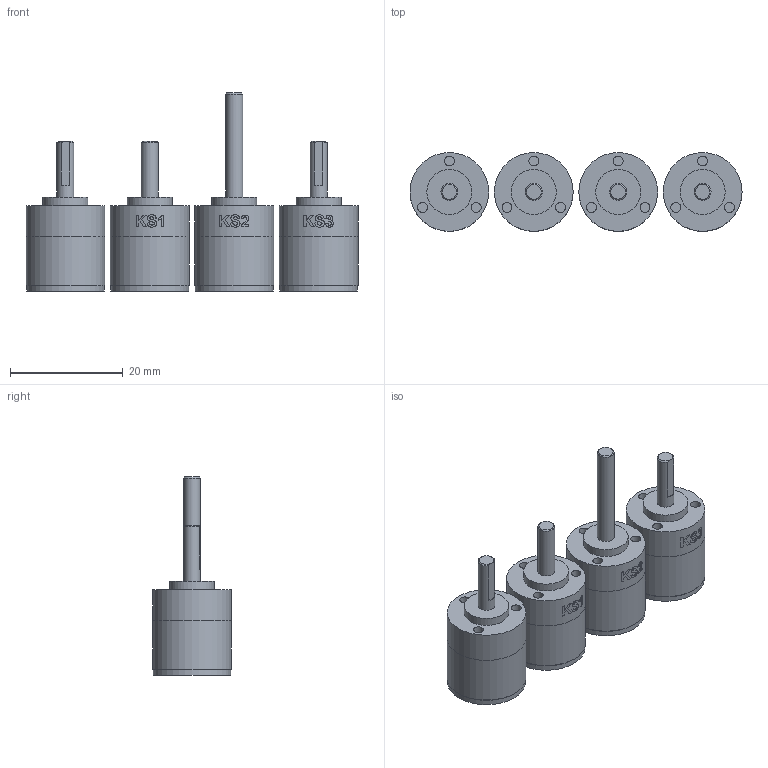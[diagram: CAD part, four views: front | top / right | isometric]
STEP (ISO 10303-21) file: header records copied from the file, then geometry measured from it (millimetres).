
FILE_DESCRIPTION(/* description */ (''),/* implementation_level */ '2;1');
FILE_NAME(/* name */ '14GPT-1stage_standard+KSx.stp',/* time_stamp */ '2024-10-30T09:13:27+01:00',/* author */ ('DR. FRITZ FAULHABER GmbH & Co. KG'),/* organization */ ('DR. FRITZ FAULHABER GmbH & Co. KG'),/* preprocessor_version */ 'ST-DEVELOPER v19.3',/* originating_system */ 'SIEMENS PLM Software NX2212.4000',/* authorisation */ '');
FILE_SCHEMA (('AUTOMOTIVE_DESIGN { 1 0 10303 214 3 1 1 1 }'));
Length unit declared in the file: millimetre
Products named in the file (1): A_objects
Bounding box: 59 x 14 x 35.2 mm (x, y, z)
Volume: 8812.6 mm3; surface area: 5171 mm2
Topology: 4 solids, 4 shells, 196 faces, 404 edges, 273 vertices
Faces by surface type: plane 91, cylinder 61, bspline 39, cone 5
Full cylindrical faces by diameter (mm): 1.75 x12, 2.651 x4, 3 x4, 8 x4, 9 x4, 12.8 x4, 13.4 x4, 13.8 x4, 13.999 x4, 14 x8
Entity records: 8738 total; most frequent: CARTESIAN_POINT 4607, ORIENTED_EDGE 664, DIRECTION 613, EDGE_CURVE 332, EDGE_LOOP 307, AXIS2_PLACEMENT_3D 287, VERTEX_POINT 255, FACE_BOUND 201
